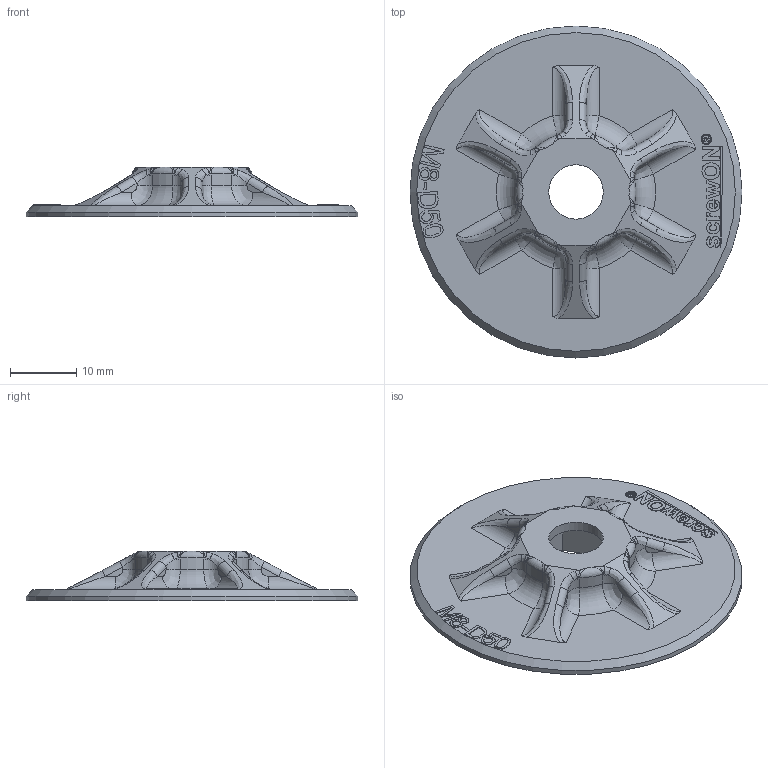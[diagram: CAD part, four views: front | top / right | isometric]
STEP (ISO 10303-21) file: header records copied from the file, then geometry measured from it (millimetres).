
FILE_DESCRIPTION(/* description */ (''),/* implementation_level */ '2;1');
FILE_NAME(/* name */ 'ScrewON Halter Rund M8 D50 v5.step',/* time_stamp */ '2023-02-15T23:43:40+01:00',/* author */ (''),/* organization */ (''),/* preprocessor_version */ 'ST-DEVELOPER v19.2',/* originating_system */ 'Autodesk Translation Framework v11.17.0.187',/* authorisation */ '');
FILE_SCHEMA (('AUTOMOTIVE_DESIGN { 1 0 10303 214 3 1 1 }'));
Length unit declared in the file: millimetre
Products named in the file (1): ScrewON Halter Rund M8 D50
Bounding box: 50 x 50 x 7.5 mm (x, y, z)
Volume: 4378.3 mm3; surface area: 4676.8 mm2
Topology: 1 solids, 1 shells, 439 faces, 1149 edges, 738 vertices
Faces by surface type: bspline 237, plane 133, cylinder 56, torus 12, cone 1
Full cylindrical faces by diameter (mm): 8.2 x1, 50 x1
Entity records: 17238 total; most frequent: CARTESIAN_POINT 7745, ORIENTED_EDGE 2298, DIRECTION 1367, EDGE_CURVE 1149, VERTEX_POINT 738, LINE 525, VECTOR 525, EDGE_LOOP 467
